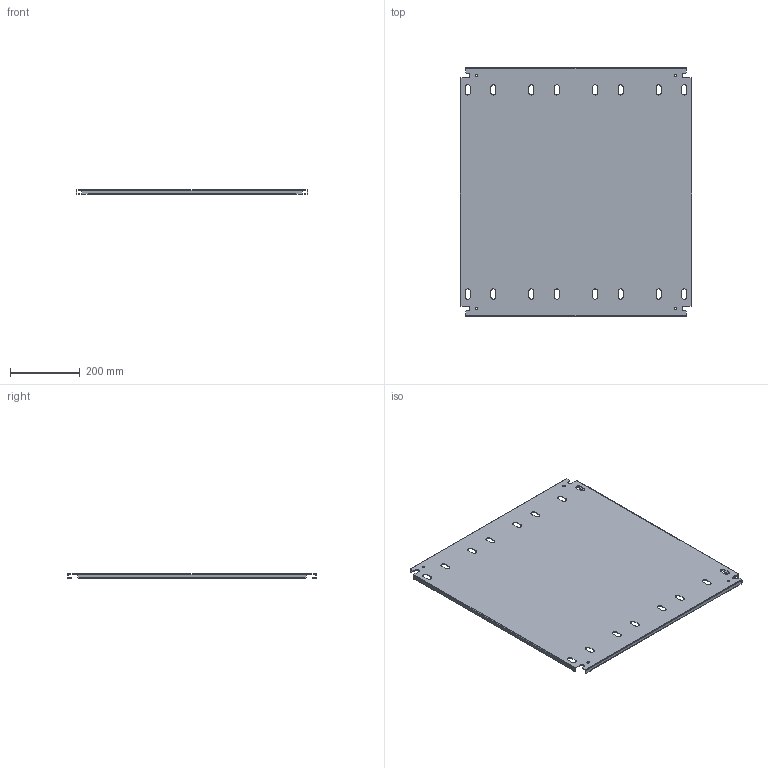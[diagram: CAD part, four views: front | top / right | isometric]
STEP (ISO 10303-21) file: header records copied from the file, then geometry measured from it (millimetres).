
FILE_DESCRIPTION(/* description */ ('1412BTSSCU 26.126" x 28" Left Inner Panel'),/* implementation_level */ '2;1');
FILE_NAME(/* name */ 'C:\Vault_Workspace\Inventor_Dwg\BoxCad\Result\1412BTSSCU091604DT\e-mail\3D\1412BTSSCU091604DTIP1.stp',/* time_stamp */ '2022-10-28T12:45:10-04:00',/* author */ ('BoxCad'),/* organization */ (''),/* preprocessor_version */ 'ST-DEVELOPER v18.1',/* originating_system */ 'Autodesk Inventor 2020',/* authorisation */ '');
FILE_SCHEMA (('AUTOMOTIVE_DESIGN { 1 0 10303 214 3 1 1 }'));
Length unit declared in the file: inch
Products named in the file (2): 1412BTSSCU091604DTIP1; 1412BTSSCU091604DTIP1-P
Assembly tree (1 placements, depth 2):
  1412BTSSCU091604DTIP1
    1412BTSSCU091604DTIP1-P
Bounding box: 663.6 x 711.2 x 13 mm (x, y, z)
Volume: 881783.2 mm3; surface area: 1028479.6 mm2
Topology: 1 solids, 1 shells, 174 faces, 516 edges, 344 vertices
Faces by surface type: plane 98, cylinder 76
Full cylindrical faces by diameter (mm): 7.366 x4
Entity records: 6001 total; most frequent: CARTESIAN_POINT 1037, ORIENTED_EDGE 1032, DIRECTION 1022, EDGE_CURVE 516, LINE 364, VECTOR 364, VERTEX_POINT 344, AXIS2_PLACEMENT_3D 329
